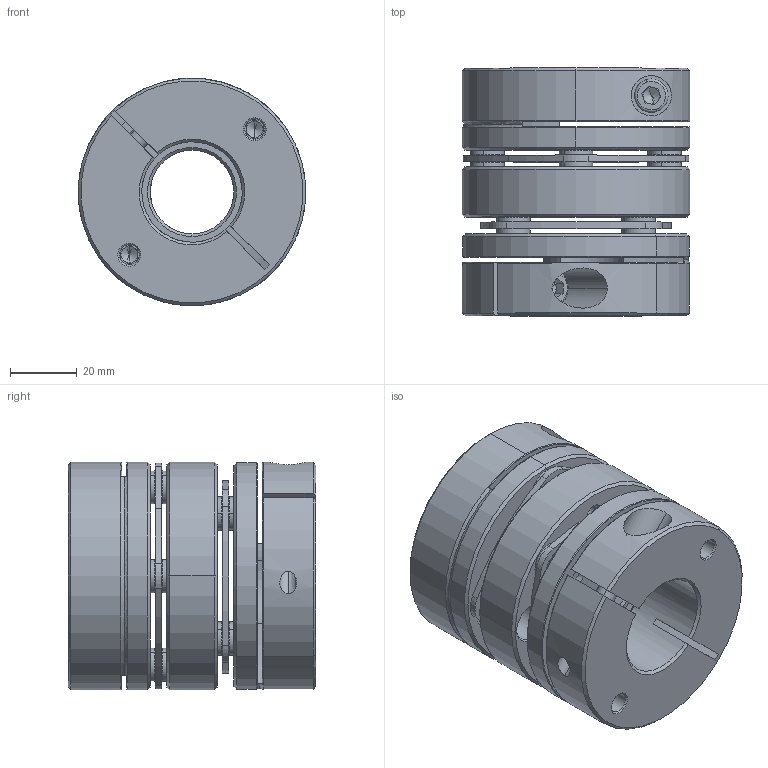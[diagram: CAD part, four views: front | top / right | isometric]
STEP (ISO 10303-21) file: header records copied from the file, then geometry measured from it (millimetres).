
FILE_DESCRIPTION (( 'STEP AP203' ), '1' );
FILE_NAME ('LD2-D68-25-30.STEP', '2021-10-26T08:45:29', ( '' ), ( '' ), 'SwSTEP 2.0', 'SolidWorks 2018', '' );
FILE_SCHEMA (( 'CONFIG_CONTROL_DESIGN' ));
Length unit declared in the file: millimetre
Products named in the file (2): 錨璃102^LD2-D68; LD2-D68-25-30
Assembly tree (1 placements, depth 2):
  LD2-D68-25-30
    錨璃102^LD2-D68
Bounding box: 68 x 74 x 68 mm (x, y, z)
Volume: 176783 mm3; surface area: 63437.9 mm2
Topology: 1 solids, 27 shells, 732 faces, 1696 edges, 1032 vertices
Faces by surface type: cylinder 256, cone 226, plane 220, torus 30
Entity records: 21398 total; most frequent: DIRECTION 3974, CARTESIAN_POINT 3912, ORIENTED_EDGE 3344, EDGE_CURVE 1672, AXIS2_PLACEMENT_3D 1614, VERTEX_POINT 1032, CIRCLE 878, EDGE_LOOP 868
